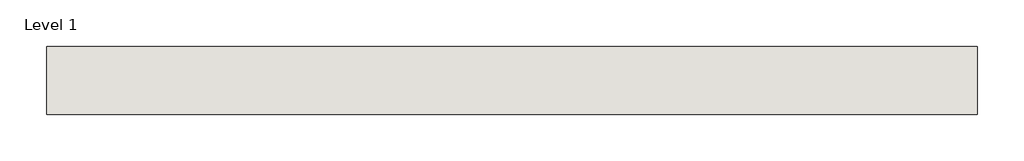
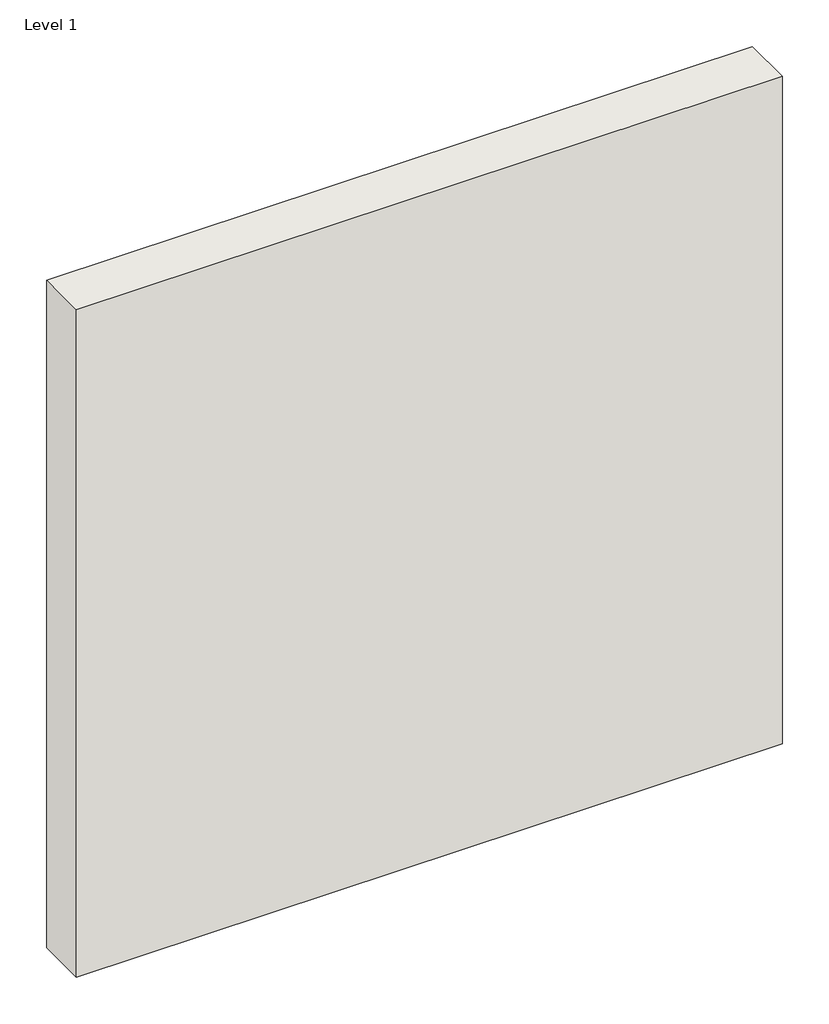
# One storey: 1 wall.
"""IFC4 building model written with IfcOpenShell, lengths in millimetres."""

import ifcopenshell
import ifcopenshell.guid

model = None  # the IFC model being written
_history = None  # IfcOwnerHistory: only IFC2X3 demands one
_inside = {}  # id of a spatial element -> (the spatial element, [elements in it])
_under = {}  # id of a project, library or spatial element -> (it, [spatial elements below it])
_declared = {}  # id of a project -> (the project, [libraries it declares])
_typed = {}  # id of a type object -> (the type object, [elements of that type])
_made_of = {}  # id of a material, layer set ... -> (it, [elements and type objects made of it])


def new_model(schema):
    """Start an empty IFC model of exactly this schema.

    Asked for "IFC4X3", IfcOpenShell would pick the latest addendum, in which some entities
    have other attributes; the version numbers below select the first issue.
    IFC2X3 requires an IfcOwnerHistory on every rooted entity: one is made here for all.
    """
    global model, _history
    if schema == "IFC4X3":
        model = ifcopenshell.file(schema_version=(4, 3, 0, 0))
    else:
        model = ifcopenshell.file(schema=schema)
    _inside.clear()
    _under.clear()
    _declared.clear()
    _typed.clear()
    _made_of.clear()
    _history = None
    if model.schema == "IFC2X3":
        org = make("IfcOrganization", Name="unknown")
        user = make(
            "IfcPersonAndOrganization",
            ThePerson=make("IfcPerson", FamilyName="unknown"),
            TheOrganization=org,
        )
        app = make(
            "IfcApplication",
            ApplicationDeveloper=org,
            Version="unknown",
            ApplicationFullName="unknown",
            ApplicationIdentifier="unknown",
        )
        _history = make(
            "IfcOwnerHistory",
            OwningUser=user,
            OwningApplication=app,
            ChangeAction="ADDED",
            CreationDate=0,
        )
    return model


def make(cls, **values):
    """One entity of the class cls with the attributes given. An attribute that is None is left unset."""
    return model.create_entity(
        cls, **{name: value for name, value in values.items() if value is not None}
    )


def rooted(cls, **values):
    """An entity with a GlobalId (a new one), such as an element, a storey or a relation."""
    return make(cls, GlobalId=ifcopenshell.guid.new(), OwnerHistory=_history, **values)


def si_unit(unit_type, name, prefix=None):
    """IfcSIUnit, for example si_unit("LENGTHUNIT", "METRE", prefix="MILLI")."""
    return make("IfcSIUnit", UnitType=unit_type, Prefix=prefix, Name=name)


def assignment(units):
    """IfcUnitAssignment: the units of a project."""
    return None if units is None else make("IfcUnitAssignment", Units=units)


def point(xyz):
    """IfcCartesianPoint."""
    return None if xyz is None else make("IfcCartesianPoint", Coordinates=xyz)


def direction(xyz):
    """IfcDirection."""
    return None if xyz is None else make("IfcDirection", DirectionRatios=xyz)


def frame(location, z_axis=None, x_axis=None):
    """IfcAxis2Placement3D, a coordinate frame: its origin and axes. An axis left out is left unset."""
    return make(
        "IfcAxis2Placement3D",
        Location=point(location),
        Axis=direction(z_axis),
        RefDirection=direction(x_axis),
    )


def origin():
    """The frame at (0, 0, 0) with its axes left unset."""
    return frame((0.0, 0.0, 0.0))


def origin_with_axes():
    """The frame at (0, 0, 0) with the z axis (0, 0, 1) and the x axis (1, 0, 0) written out."""
    return frame((0.0, 0.0, 0.0), z_axis=(0.0, 0.0, 1.0), x_axis=(1.0, 0.0, 0.0))


def place(relative_to, where):
    """IfcLocalPlacement: puts the frame where relative to a parent placement (None: the world)."""
    return make(
        "IfcLocalPlacement", PlacementRelTo=relative_to, RelativePlacement=where
    )


def context(
    kind, dimensions, precision=None, world=None, true_north=None, identifier=None
):
    """IfcGeometricRepresentationContext, for example the 3D "Model" context."""
    return make(
        "IfcGeometricRepresentationContext",
        ContextIdentifier=identifier,
        ContextType=kind,
        CoordinateSpaceDimension=dimensions,
        Precision=precision,
        WorldCoordinateSystem=world,
        TrueNorth=true_north,
    )


def project(units=None, contexts=None):
    """IfcProject with its units and contexts."""
    return rooted(
        "IfcProject",
        Name="project",
        RepresentationContexts=contexts,
        UnitsInContext=assignment(units),
    )


def spatial(cls, under=None, at=None, **own):
    """A site, building, storey or space (cls), placed at a placement, below another one or the project."""
    s = rooted(cls, ObjectPlacement=at, **own)
    if under is not None:
        _under.setdefault(under.id(), (under, []))[1].append(s)
    return s


def polyline(points):
    """IfcPolyline through the points."""
    return make("IfcPolyline", Points=[point(p) for p in points])


def outline(outer, holes=None, kind="AREA"):
    """IfcArbitraryClosedProfileDef: a profile drawn as a closed curve; with holes, ...WithVoids."""
    if holes is None:
        return make("IfcArbitraryClosedProfileDef", ProfileType=kind, OuterCurve=outer)
    return make(
        "IfcArbitraryProfileDefWithVoids",
        ProfileType=kind,
        OuterCurve=outer,
        InnerCurves=holes,
    )


def extrude(swept, where, along, depth):
    """IfcExtrudedAreaSolid: the profile swept, set in the frame where, extruded along a direction by depth."""
    return make(
        "IfcExtrudedAreaSolid",
        SweptArea=swept,
        Position=where,
        ExtrudedDirection=direction(along),
        Depth=depth,
    )


def shape(context_of_items, identifier, shape_type, items):
    """IfcShapeRepresentation: the items that make up one representation, for example the "Body"."""
    return make(
        "IfcShapeRepresentation",
        ContextOfItems=context_of_items,
        RepresentationIdentifier=identifier,
        RepresentationType=shape_type,
        Items=items,
    )


def made_of(thing, what):
    """Note that an element or type object is made of a material, layer set ...; save() writes the relation."""
    if what is not None:
        _made_of.setdefault(what.id(), (what, []))[1].append(thing)
    return thing


def element(
    cls,
    number,
    at=None,
    inside=None,
    cuts=None,
    type_object=None,
    material=None,
    context=None,
    identifier="Body",
    shape_type=None,
    held_by="IfcProductDefinitionShape",
    body=None,
    shapes=None,
    **own,
):
    """One element of the class cls, such as IfcWall. Its Tag is "e" and its number.

    at: its placement. inside: the storey or other place that contains it. cuts: it is an
    opening in that element (IfcRelVoidsElement). A single representation is given by context,
    identifier, shape_type and body (its items); several are given by shapes. held_by: the class
    of the entity that holds the representations. save() writes the other relations.
    """
    e = rooted(cls, Tag="e%d" % number, ObjectPlacement=at, **own)
    if body is not None:
        shapes = [shape(context, identifier, shape_type, body)]
    if shapes is not None:
        e.Representation = make(held_by, Representations=shapes)
    if inside is not None:
        _inside.setdefault(inside.id(), (inside, []))[1].append(e)
    if cuts is not None:
        rooted(
            "IfcRelVoidsElement", RelatingBuildingElement=cuts, RelatedOpeningElement=e
        )
    if type_object is not None:
        _typed.setdefault(type_object.id(), (type_object, []))[1].append(e)
    return made_of(e, material)


def aggregate(whole, parts):
    """IfcRelAggregates: a whole, such as a stair, and the parts it consists of."""
    return rooted("IfcRelAggregates", RelatingObject=whole, RelatedObjects=parts)


def save(model, path):
    """Write the relations noted so far, then the file.

    IfcRelAggregates (storeys below a building ...), IfcRelContainedInSpatialStructure (elements
    in a storey), IfcRelDefinesByType, IfcRelAssociatesMaterial and IfcRelDeclares: one each for
    every whole, place, type object, material and project.
    """
    for whole, parts in _under.values():
        aggregate(whole, parts)
    for where, things in _inside.values():
        rooted(
            "IfcRelContainedInSpatialStructure",
            RelatedElements=things,
            RelatingStructure=where,
        )
    for kind, things in _typed.values():
        rooted("IfcRelDefinesByType", RelatedObjects=things, RelatingType=kind)
    for what, things in _made_of.values():
        rooted("IfcRelAssociatesMaterial", RelatedObjects=things, RelatingMaterial=what)
    for by, libraries in _declared.values():
        rooted("IfcRelDeclares", RelatingContext=by, RelatedDefinitions=libraries)
    model.write(path)


model = new_model("IFC4")

# Units and contexts
model_context = context("Model", 3, world=origin())
ifc_project = project(units=[si_unit("LENGTHUNIT", "METRE", prefix="MILLI")], contexts=[model_context])

# Site, building, storey
site = spatial("IfcSite", under=ifc_project)
building = spatial("IfcBuilding", under=site)
storey = spatial("IfcBuildingStorey", under=building, Name="Level 1", Elevation=0.0)

# Wall
placement = place(None, origin())
element("IfcWall", 1, ObjectType="GYPTEC- REVESTIMENTO 73 BA13A", at=placement, inside=storey, context=model_context, shape_type="SweptSolid", body=[
    extrude(outline(polyline([(1000.0, 23.5), (0.0, 23.5), (0.0, 96.5), (1000.0, 96.5), (1000.0, 23.5)])), origin_with_axes(), (0.0, 0.0, 1.0), 1000.0),
])

save(model, "model.ifc")
